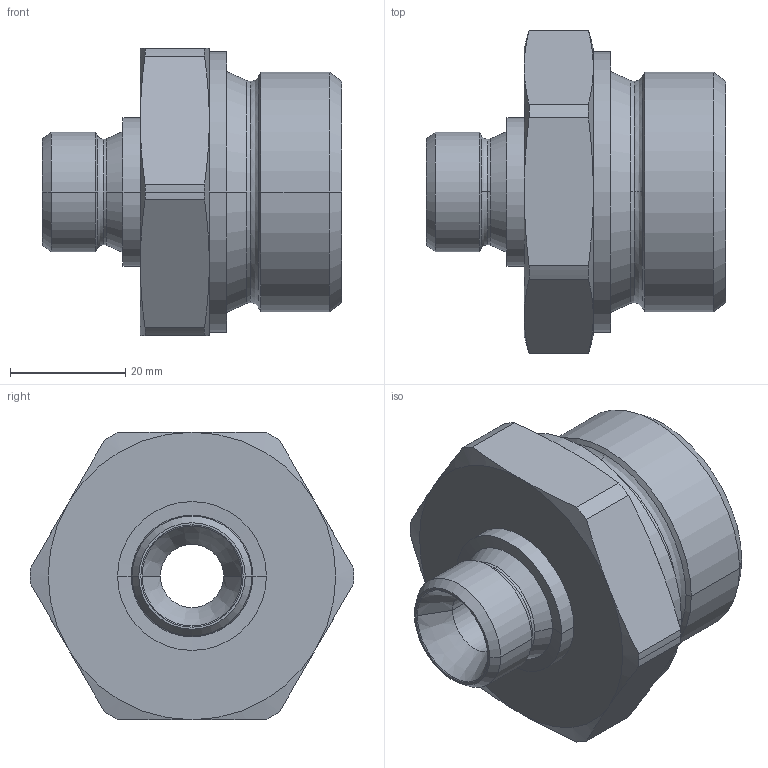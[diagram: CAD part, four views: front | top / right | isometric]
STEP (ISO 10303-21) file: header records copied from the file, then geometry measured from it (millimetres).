
FILE_DESCRIPTION((''),'2;1');
FILE_NAME('300515.stp','2006-09-11T08:11:39',(''),(''),'AutoCAD STEP 2000i','AutoCAD 2000i',', , ');
FILE_SCHEMA(('CONFIG_CONTROL_DESIGN'));
Length unit declared in the file: millimetre
Products named in the file (2): 300515.0; CHIAVE SMUSSATA#0
Assembly tree (1 placements, depth 2):
  300515.0
    CHIAVE SMUSSATA#0
Bounding box: 52 x 56.2 x 50 mm (x, y, z)
Volume: 40860.1 mm3; surface area: 13225 mm2
Topology: 1 solids, 1 shells, 76 faces, 178 edges, 106 vertices
Faces by surface type: cone 34, cylinder 20, plane 10, bspline 8, torus 4
Entity records: 2593 total; most frequent: CARTESIAN_POINT 762, DIRECTION 400, ORIENTED_EDGE 356, EDGE_CURVE 178, AXIS2_PLACEMENT_3D 176, VERTEX_POINT 106, CIRCLE 106, EDGE_LOOP 80
